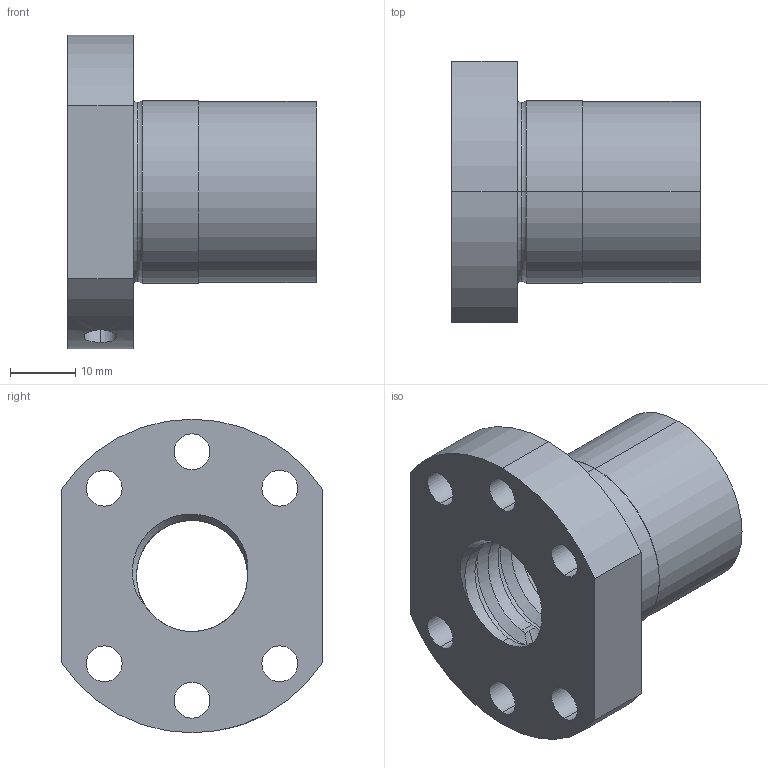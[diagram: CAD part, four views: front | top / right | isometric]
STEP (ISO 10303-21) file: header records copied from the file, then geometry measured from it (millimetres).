
FILE_DESCRIPTION (( 'STEP AP214' ), '1' );
FILE_NAME ('LLE1605-F.STEP', '2020-12-17T06:27:34', ( 'user' ), ( 'datathink' ), 'SwSTEP 2.0', 'SolidWorks 2013', '' );
FILE_SCHEMA (( 'AUTOMOTIVE_DESIGN' ));
Length unit declared in the file: millimetre
Products named in the file (1): LLE1605-F
Bounding box: 38 x 40 x 48 mm (x, y, z)
Volume: 22381.8 mm3; surface area: 10228.4 mm2
Topology: 1 solids, 1 shells, 57 faces, 157 edges, 102 vertices
Faces by surface type: cylinder 39, plane 7, torus 4, cone 4, bspline 3
Entity records: 4697 total; most frequent: CARTESIAN_POINT 3283, ORIENTED_EDGE 310, DIRECTION 258, EDGE_CURVE 155, AXIS2_PLACEMENT_3D 106, VERTEX_POINT 102, EDGE_LOOP 75, ADVANCED_FACE 57
